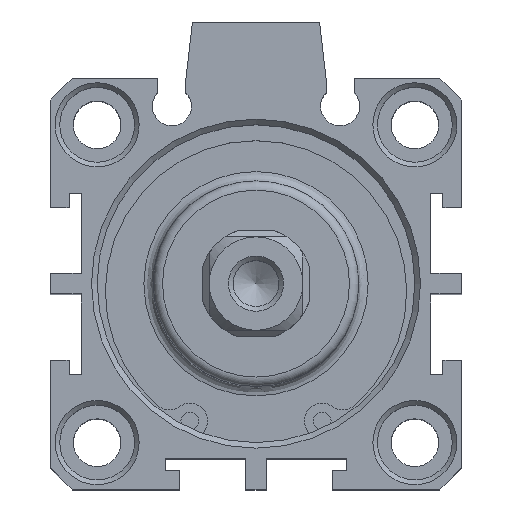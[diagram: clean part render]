
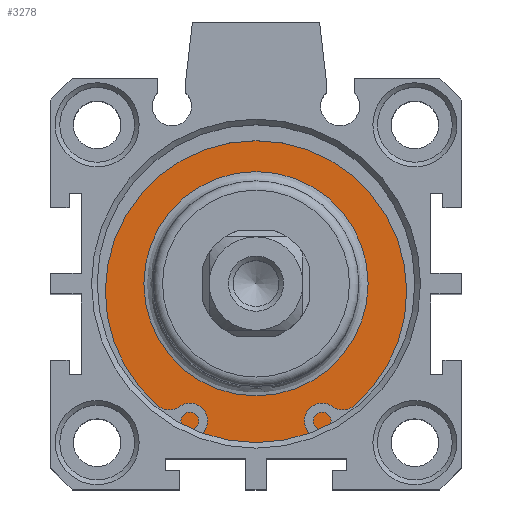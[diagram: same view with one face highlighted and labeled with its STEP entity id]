
A CAD part, top view. The second image highlights one B-rep face of the part: STEP entity #3278.
In plain terms, the highlighted planar face has unit normal (0, 0, 1).
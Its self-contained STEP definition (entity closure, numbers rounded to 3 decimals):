
#3227=CARTESIAN_POINT('',(-3.726,11.88,40.3));
#3228=VERTEX_POINT('',#3227);
#3229=CARTESIAN_POINT('',(-3.726,-0.12,40.3));
#3230=DIRECTION('',(0.0,0.0,1.0));
#3231=DIRECTION('',(0.0,-1.0,0.0));
#3232=AXIS2_PLACEMENT_3D('',#3229,#3230,#3231);
#3233=CIRCLE('',#3232,12.);
#3234=EDGE_CURVE('',#3228,#3228,#3233,.T.);
#3259=CARTESIAN_POINT('',(-3.726,13.88,40.3));
#3260=DIRECTION('',(0.0,0.0,1.0));
#3261=DIRECTION('',(1.0,0.0,0.0));
#3262=AXIS2_PLACEMENT_3D('',#3259,#3260,#3261);
#3263=PLANE('',#3262);
#3264=CARTESIAN_POINT('',(-3.726,16.88,40.3));
#3265=VERTEX_POINT('',#3264);
#3266=CARTESIAN_POINT('',(-3.726,-0.12,40.3));
#3267=DIRECTION('',(0.0,0.0,-1.0));
#3268=DIRECTION('',(0.0,1.0,0.0));
#3269=AXIS2_PLACEMENT_3D('',#3266,#3267,#3268);
#3270=CIRCLE('',#3269,17.0);
#3271=EDGE_CURVE('',#3265,#3265,#3270,.T.);
#3272=ORIENTED_EDGE('',*,*,#3271,.F.);
#3273=EDGE_LOOP('',(#3272));
#3274=FACE_OUTER_BOUND('',#3273,.T.);
#3275=ORIENTED_EDGE('',*,*,#3234,.F.);
#3276=EDGE_LOOP('',(#3275));
#3277=FACE_BOUND('',#3276,.T.);
#3278=ADVANCED_FACE('',(#3274,#3277),#3263,.T.);
